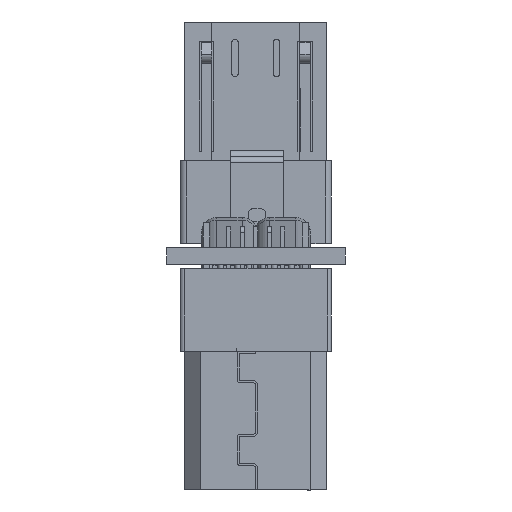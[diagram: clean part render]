
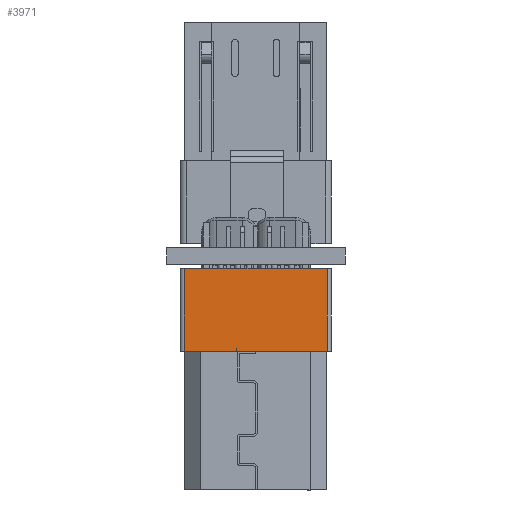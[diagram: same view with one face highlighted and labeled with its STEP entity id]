
A CAD part, front view. The second image highlights one B-rep face of the part: STEP entity #3971.
In plain terms, the highlighted planar face has unit normal (0, -1, 0).
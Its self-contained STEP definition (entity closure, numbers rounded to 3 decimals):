
#3621 = VERTEX_POINT('',#3622);
#3622 = CARTESIAN_POINT('',(-0.91,-2.73,
    6.2));
#3629 = EDGE_CURVE('',#3630,#3621,#3632,.T.);
#3630 = VERTEX_POINT('',#3631);
#3631 = CARTESIAN_POINT('',(1.461,-2.73,
    6.2));
#3632 = LINE('',#3633,#3634);
#3633 = CARTESIAN_POINT('',(-0.885,-2.73,
    6.2));
#3634 = VECTOR('',#3635,1.);
#3635 = DIRECTION('',(-1.,0.,0.));
#3637 = EDGE_CURVE('',#3638,#3630,#3640,.T.);
#3638 = VERTEX_POINT('',#3639);
#3639 = CARTESIAN_POINT('',(3.445,-2.73,
    6.2));
#3640 = LINE('',#3641,#3642);
#3641 = CARTESIAN_POINT('',(1.461,-2.73,
    6.2));
#3642 = VECTOR('',#3643,1.);
#3643 = DIRECTION('',(-1.,0.,0.));
#3645 = EDGE_CURVE('',#3646,#3638,#3648,.T.);
#3646 = VERTEX_POINT('',#3647);
#3647 = CARTESIAN_POINT('',(5.99,-2.73,
    6.2));
#3648 = LINE('',#3649,#3650);
#3649 = CARTESIAN_POINT('',(-1.11,-2.73,
    6.2));
#3650 = VECTOR('',#3651,1.);
#3651 = DIRECTION('',(-1.,0.,0.));
#3855 = VERTEX_POINT('',#3856);
#3856 = CARTESIAN_POINT('',(5.99,-2.73,
    2.2));
#3929 = VERTEX_POINT('',#3930);
#3930 = CARTESIAN_POINT('',(-0.91,-2.73,
    2.2));
#3937 = EDGE_CURVE('',#3929,#3938,#3940,.T.);
#3938 = VERTEX_POINT('',#3939);
#3939 = CARTESIAN_POINT('',(-0.885,-2.73,
    2.2));
#3940 = LINE('',#3941,#3942);
#3941 = CARTESIAN_POINT('',(-1.11,-2.73,
    2.2));
#3942 = VECTOR('',#3943,1.);
#3943 = DIRECTION('',(1.,0.,0.));
#3945 = EDGE_CURVE('',#3946,#3938,#3948,.T.);
#3946 = VERTEX_POINT('',#3947);
#3947 = CARTESIAN_POINT('',(1.461,-2.73,
    2.2));
#3948 = LINE('',#3949,#3950);
#3949 = CARTESIAN_POINT('',(-1.11,-2.73,
    2.2));
#3950 = VECTOR('',#3951,1.);
#3951 = DIRECTION('',(-1.,0.,0.));
#3953 = EDGE_CURVE('',#3954,#3946,#3956,.T.);
#3954 = VERTEX_POINT('',#3955);
#3955 = CARTESIAN_POINT('',(3.445,-2.73,
    2.2));
#3956 = LINE('',#3957,#3958);
#3957 = CARTESIAN_POINT('',(1.461,-2.73,
    2.2));
#3958 = VECTOR('',#3959,1.);
#3959 = DIRECTION('',(-1.,0.,0.));
#3961 = EDGE_CURVE('',#3855,#3954,#3962,.T.);
#3962 = LINE('',#3963,#3964);
#3963 = CARTESIAN_POINT('',(-1.11,-2.73,
    2.2));
#3964 = VECTOR('',#3965,1.);
#3965 = DIRECTION('',(-1.,0.,0.));
#3971 = ADVANCED_FACE('',(#3972),#3993,.T.);
#3972 = FACE_BOUND('',#3973,.T.);
#3973 = EDGE_LOOP('',(#3974,#3975,#3981,#3982,#3983,#3984,#3985,#3991,
    #3992));
#3974 = ORIENTED_EDGE('',*,*,#3629,.T.);
#3975 = ORIENTED_EDGE('',*,*,#3976,.T.);
#3976 = EDGE_CURVE('',#3621,#3929,#3977,.T.);
#3977 = LINE('',#3978,#3979);
#3978 = CARTESIAN_POINT('',(-0.91,-2.73,
    2.2));
#3979 = VECTOR('',#3980,1.);
#3980 = DIRECTION('',(0.,0.,-1.));
#3981 = ORIENTED_EDGE('',*,*,#3937,.T.);
#3982 = ORIENTED_EDGE('',*,*,#3945,.F.);
#3983 = ORIENTED_EDGE('',*,*,#3953,.F.);
#3984 = ORIENTED_EDGE('',*,*,#3961,.F.);
#3985 = ORIENTED_EDGE('',*,*,#3986,.T.);
#3986 = EDGE_CURVE('',#3855,#3646,#3987,.T.);
#3987 = LINE('',#3988,#3989);
#3988 = CARTESIAN_POINT('',(5.99,-2.73,
    2.2));
#3989 = VECTOR('',#3990,1.);
#3990 = DIRECTION('',(0.,0.,1.));
#3991 = ORIENTED_EDGE('',*,*,#3645,.T.);
#3992 = ORIENTED_EDGE('',*,*,#3637,.T.);
#3993 = PLANE('',#3994);
#3994 = AXIS2_PLACEMENT_3D('',#3995,#3996,#3997);
#3995 = CARTESIAN_POINT('',(-30.234,-2.73,
    2.1));
#3996 = DIRECTION('',(0.,-1.,0.));
#3997 = DIRECTION('',(0.,0.,-1.));
